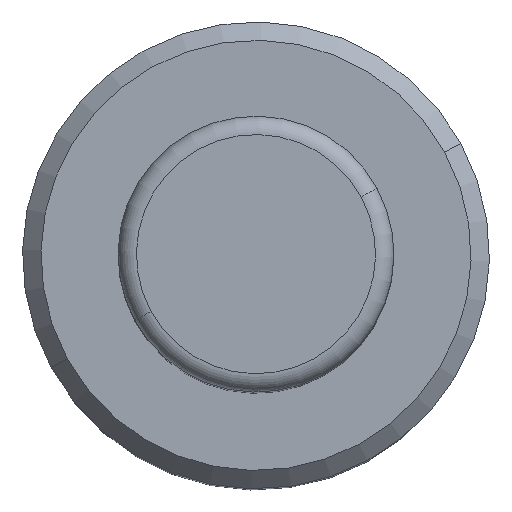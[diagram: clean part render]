
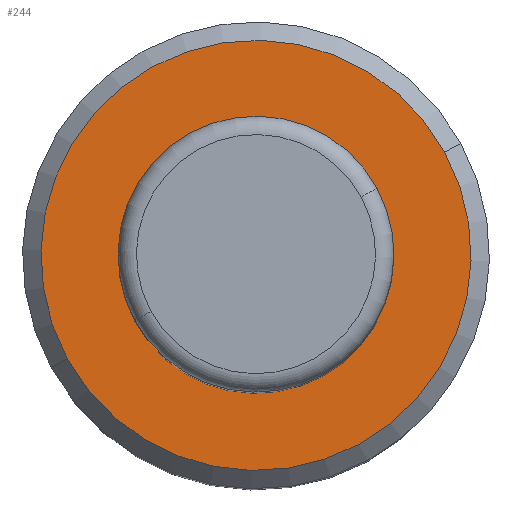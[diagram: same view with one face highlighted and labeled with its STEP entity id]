
A CAD part, top view. The second image highlights one B-rep face of the part: STEP entity #244.
In plain terms, the highlighted planar face has unit normal (0, 0, 1).
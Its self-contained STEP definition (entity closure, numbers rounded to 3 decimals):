
#183=CARTESIAN_POINT('Vertex',(-6.582,-3.596,91.)) ;
#186=CARTESIAN_POINT('Axis2P3D Location',(0.,0.,91.)) ;
#190=CARTESIAN_POINT('Vertex',(6.582,3.596,91.)) ;
#205=CARTESIAN_POINT('Axis2P3D Location',(0.,0.,91.)) ;
#217=CARTESIAN_POINT('Axis2P3D Location',(11.693,0.,91.)) ;
#222=CARTESIAN_POINT('Axis2P3D Location',(0.,0.,91.)) ;
#226=CARTESIAN_POINT('Vertex',(-10.261,-5.606,91.)) ;
#228=CARTESIAN_POINT('Vertex',(10.261,5.606,91.)) ;
#231=CARTESIAN_POINT('Axis2P3D Location',(0.,0.,91.)) ;
#187=DIRECTION('Axis2P3D Direction',(0.,0.,1.)) ;
#206=DIRECTION('Axis2P3D Direction',(0.,0.,1.)) ;
#218=DIRECTION('Axis2P3D Direction',(0.,0.,1.)) ;
#219=DIRECTION('Axis2P3D XDirection',(1.,0.,0.)) ;
#223=DIRECTION('Axis2P3D Direction',(0.,0.,1.)) ;
#232=DIRECTION('Axis2P3D Direction',(0.,0.,1.)) ;
#188=AXIS2_PLACEMENT_3D('Circle Axis2P3D',#186,#187,$) ;
#207=AXIS2_PLACEMENT_3D('Circle Axis2P3D',#205,#206,$) ;
#220=AXIS2_PLACEMENT_3D('Plane Axis2P3D',#217,#218,#219) ;
#224=AXIS2_PLACEMENT_3D('Circle Axis2P3D',#222,#223,$) ;
#233=AXIS2_PLACEMENT_3D('Circle Axis2P3D',#231,#232,$) ;
#237=ORIENTED_EDGE('',*,*,#230,.T.) ;
#238=ORIENTED_EDGE('',*,*,#235,.T.) ;
#241=ORIENTED_EDGE('',*,*,#209,.F.) ;
#242=ORIENTED_EDGE('',*,*,#192,.F.) ;
#243=FACE_BOUND('',#240,.T.) ;
#244=ADVANCED_FACE('',(#239,#243),#221,.T.) ;
#189=CIRCLE('generated circle',#188,7.5) ;
#208=CIRCLE('generated circle',#207,7.5) ;
#225=CIRCLE('generated circle',#224,11.693) ;
#234=CIRCLE('generated circle',#233,11.693) ;
#192=EDGE_CURVE('',#184,#191,#189,.T.) ;
#209=EDGE_CURVE('',#191,#184,#208,.T.) ;
#230=EDGE_CURVE('',#227,#229,#225,.T.) ;
#235=EDGE_CURVE('',#229,#227,#234,.T.) ;
#236=EDGE_LOOP('',(#237,#238)) ;
#240=EDGE_LOOP('',(#241,#242)) ;
#239=FACE_OUTER_BOUND('',#236,.T.) ;
#221=PLANE('Plane',#220) ;
#184=VERTEX_POINT('',#183) ;
#191=VERTEX_POINT('',#190) ;
#227=VERTEX_POINT('',#226) ;
#229=VERTEX_POINT('',#228) ;
